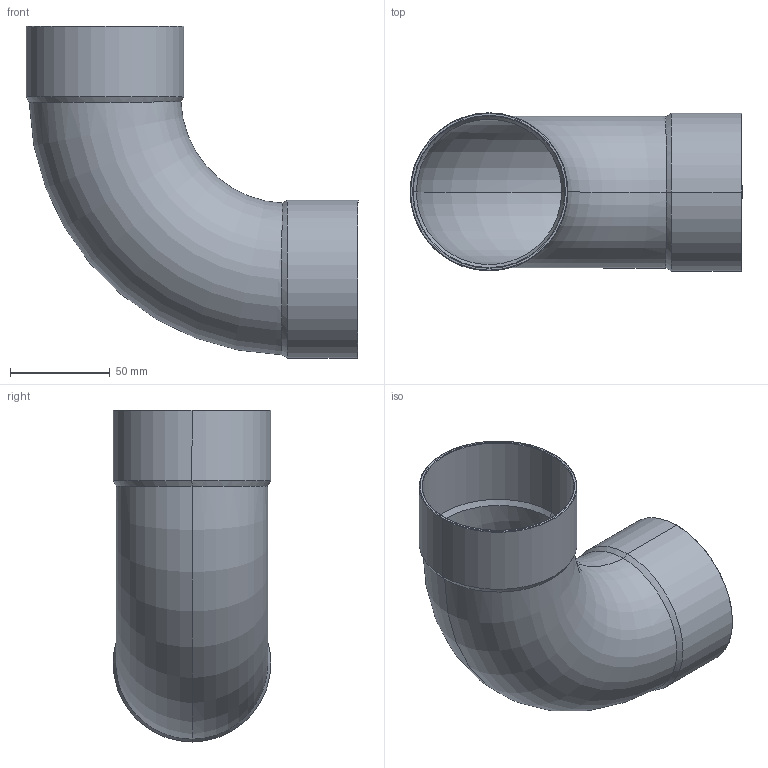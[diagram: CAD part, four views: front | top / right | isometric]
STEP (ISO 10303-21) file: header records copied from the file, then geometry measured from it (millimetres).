
FILE_DESCRIPTION((''),'2;1');
FILE_NAME('D:\5002\15002a76.stp','2005-10-04T12:39:47',('Kris'),(''),'Autodesk Inventor 8','Autodesk Inventor 8','');
FILE_SCHEMA(('AUTOMOTIVE_DESIGN { 1 0 10303 214 1 1 1 1 }'));
Length unit declared in the file: millimetre
Products named in the file (1): 15002a76
Bounding box: 166.65 x 79.3 x 166.65 mm (x, y, z)
Volume: 81898.9 mm3; surface area: 103036.5 mm2
Topology: 1 solids, 1 shells, 30 faces, 60 edges, 32 vertices
Faces by surface type: cone 12, bspline 9, torus 4, cylinder 4, plane 1
Entity records: 1035 total; most frequent: CARTESIAN_POINT 422, DIRECTION 124, ORIENTED_EDGE 120, EDGE_CURVE 60, AXIS2_PLACEMENT_3D 50, VERTEX_POINT 32, EDGE_LOOP 32, FACE_OUTER_BOUND 30
